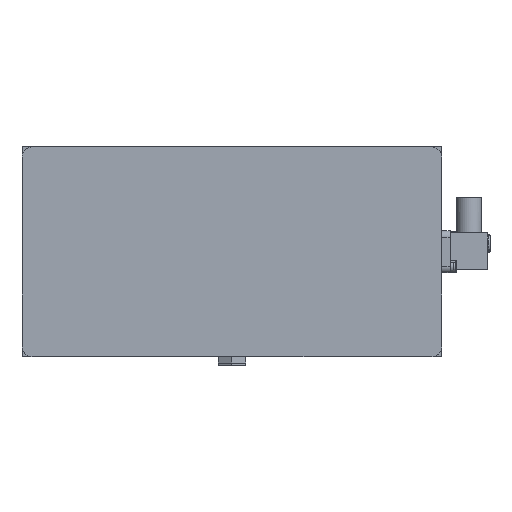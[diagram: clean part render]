
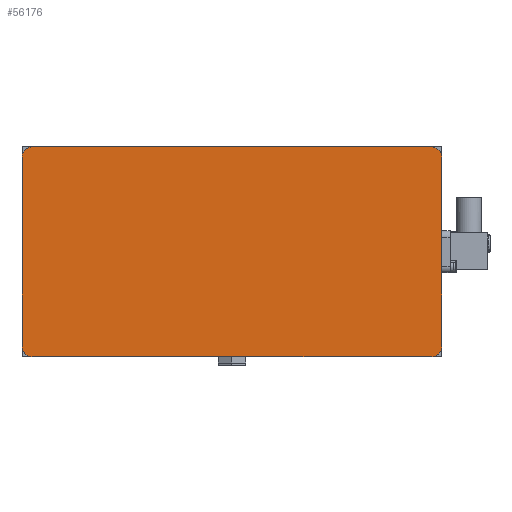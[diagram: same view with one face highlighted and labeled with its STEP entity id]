
A CAD part, front view. The second image highlights one B-rep face of the part: STEP entity #56176.
In plain terms, the highlighted planar face has unit normal (0, -1, 0).
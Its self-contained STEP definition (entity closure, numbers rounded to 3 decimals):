
#56009=CARTESIAN_POINT('Vertex',(-95.,-358.,-50.)) ;
#56012=CARTESIAN_POINT('Axis2P3D Location',(-95.,-358.,-45.)) ;
#56016=CARTESIAN_POINT('Vertex',(-100.,-358.,-45.)) ;
#56040=CARTESIAN_POINT('Vertex',(100.,-358.,-45.)) ;
#56043=CARTESIAN_POINT('Axis2P3D Location',(95.,-358.,-45.)) ;
#56047=CARTESIAN_POINT('Vertex',(95.,-358.,-50.)) ;
#56071=CARTESIAN_POINT('Vertex',(95.,-358.,50.)) ;
#56074=CARTESIAN_POINT('Axis2P3D Location',(95.,-358.,45.)) ;
#56078=CARTESIAN_POINT('Vertex',(100.,-358.,45.)) ;
#56102=CARTESIAN_POINT('Vertex',(-100.,-358.,45.)) ;
#56105=CARTESIAN_POINT('Axis2P3D Location',(-95.,-358.,45.)) ;
#56109=CARTESIAN_POINT('Vertex',(-95.,-358.,50.)) ;
#56141=CARTESIAN_POINT('Axis2P3D Location',(0.,-358.,0.)) ;
#56146=CARTESIAN_POINT('Line Origine',(-100.,-358.,0.)) ;
#56151=CARTESIAN_POINT('Line Origine',(0.,-358.,-50.)) ;
#56156=CARTESIAN_POINT('Line Origine',(100.,-358.,0.)) ;
#56161=CARTESIAN_POINT('Line Origine',(0.,-358.,50.)) ;
#56013=DIRECTION('Axis2P3D Direction',(0.,1.,0.)) ;
#56044=DIRECTION('Axis2P3D Direction',(0.,1.,0.)) ;
#56075=DIRECTION('Axis2P3D Direction',(0.,1.,0.)) ;
#56106=DIRECTION('Axis2P3D Direction',(0.,1.,0.)) ;
#56142=DIRECTION('Axis2P3D Direction',(0.,1.,0.)) ;
#56143=DIRECTION('Axis2P3D XDirection',(1.,0.,0.)) ;
#56147=DIRECTION('Vector Direction',(0.,0.,1.)) ;
#56152=DIRECTION('Vector Direction',(-1.,0.,0.)) ;
#56157=DIRECTION('Vector Direction',(0.,0.,-1.)) ;
#56162=DIRECTION('Vector Direction',(1.,0.,0.)) ;
#56014=AXIS2_PLACEMENT_3D('Circle Axis2P3D',#56012,#56013,$) ;
#56045=AXIS2_PLACEMENT_3D('Circle Axis2P3D',#56043,#56044,$) ;
#56076=AXIS2_PLACEMENT_3D('Circle Axis2P3D',#56074,#56075,$) ;
#56107=AXIS2_PLACEMENT_3D('Circle Axis2P3D',#56105,#56106,$) ;
#56144=AXIS2_PLACEMENT_3D('Plane Axis2P3D',#56141,#56142,#56143) ;
#56167=ORIENTED_EDGE('',*,*,#56150,.F.) ;
#56168=ORIENTED_EDGE('',*,*,#56018,.F.) ;
#56169=ORIENTED_EDGE('',*,*,#56155,.F.) ;
#56170=ORIENTED_EDGE('',*,*,#56049,.F.) ;
#56171=ORIENTED_EDGE('',*,*,#56160,.F.) ;
#56172=ORIENTED_EDGE('',*,*,#56080,.F.) ;
#56173=ORIENTED_EDGE('',*,*,#56165,.F.) ;
#56174=ORIENTED_EDGE('',*,*,#56111,.F.) ;
#56148=VECTOR('Line Direction',#56147,1.) ;
#56153=VECTOR('Line Direction',#56152,1.) ;
#56158=VECTOR('Line Direction',#56157,1.) ;
#56163=VECTOR('Line Direction',#56162,1.) ;
#56176=ADVANCED_FACE('Haube',(#56175),#56145,.F.) ;
#56015=CIRCLE('generated circle',#56014,5.) ;
#56046=CIRCLE('generated circle',#56045,5.) ;
#56077=CIRCLE('generated circle',#56076,5.) ;
#56108=CIRCLE('generated circle',#56107,5.) ;
#56018=EDGE_CURVE('',#56010,#56017,#56015,.T.) ;
#56049=EDGE_CURVE('',#56041,#56048,#56046,.T.) ;
#56080=EDGE_CURVE('',#56072,#56079,#56077,.T.) ;
#56111=EDGE_CURVE('',#56103,#56110,#56108,.T.) ;
#56150=EDGE_CURVE('',#56017,#56103,#56149,.T.) ;
#56155=EDGE_CURVE('',#56048,#56010,#56154,.T.) ;
#56160=EDGE_CURVE('',#56079,#56041,#56159,.T.) ;
#56165=EDGE_CURVE('',#56110,#56072,#56164,.T.) ;
#56166=EDGE_LOOP('',(#56167,#56168,#56169,#56170,#56171,#56172,#56173,#56174)) ;
#56175=FACE_OUTER_BOUND('',#56166,.T.) ;
#56149=LINE('Line',#56146,#56148) ;
#56154=LINE('Line',#56151,#56153) ;
#56159=LINE('Line',#56156,#56158) ;
#56164=LINE('Line',#56161,#56163) ;
#56145=PLANE('Plane',#56144) ;
#56010=VERTEX_POINT('',#56009) ;
#56017=VERTEX_POINT('',#56016) ;
#56041=VERTEX_POINT('',#56040) ;
#56048=VERTEX_POINT('',#56047) ;
#56072=VERTEX_POINT('',#56071) ;
#56079=VERTEX_POINT('',#56078) ;
#56103=VERTEX_POINT('',#56102) ;
#56110=VERTEX_POINT('',#56109) ;
